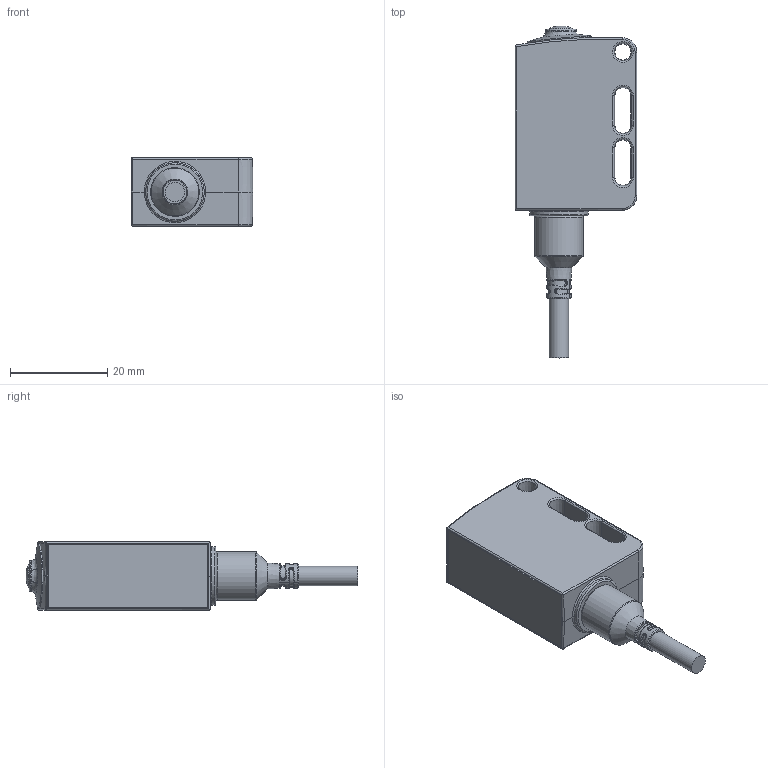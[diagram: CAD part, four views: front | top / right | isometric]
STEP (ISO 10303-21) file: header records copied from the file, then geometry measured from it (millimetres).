
FILE_DESCRIPTION(/* description */ (''),/* implementation_level */ '2;1');
FILE_NAME(/* name */ '3DCAD_BR55C_Cable.stp',/* time_stamp */ '2022-08-17T15:37:29+02:00',/* author */ ('CC2'),/* organization */ ('Leuze electronic'),/* preprocessor_version */ 'ST-DEVELOPER v16',/* originating_system */ 'SIEMENS PLM Software NX 11.0',/* authorisation */ '');
FILE_SCHEMA (('AUTOMOTIVE_DESIGN { 1 0 10303 214 3 1 1 1 }'));
Length unit declared in the file: millimetre
Products named in the file (1): 19-103497_00.0_1-3DCAD_BR55C_Cable
Bounding box: 25 x 68.11 x 14 mm (x, y, z)
Volume: 12467.8 mm3; surface area: 4908.4 mm2
Topology: 1 solids, 1 shells, 172 faces, 420 edges, 253 vertices
Faces by surface type: plane 43, cylinder 38, bspline 37, cone 22, torus 21, revolution 10, extrusion 1
Full cylindrical faces by diameter (mm): 4 x1, 4.4 x1, 6.4 x1, 10 x1, 12 x2
Entity records: 8293 total; most frequent: CARTESIAN_POINT 4179, ORIENTED_EDGE 758, DIRECTION 699, EDGE_CURVE 379, AXIS2_PLACEMENT_3D 284, VERTEX_POINT 237, EDGE_LOOP 209, ADVANCED_FACE 172
